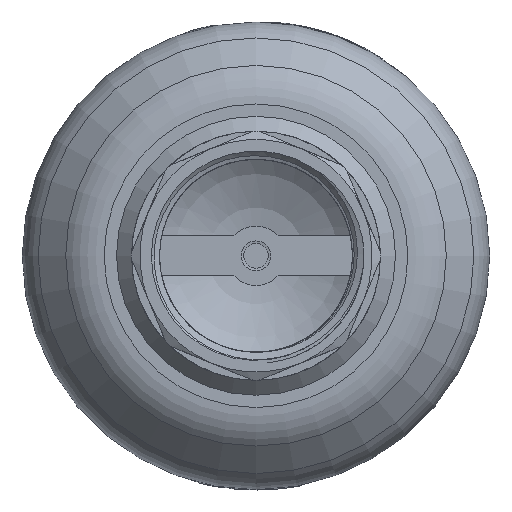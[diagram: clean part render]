
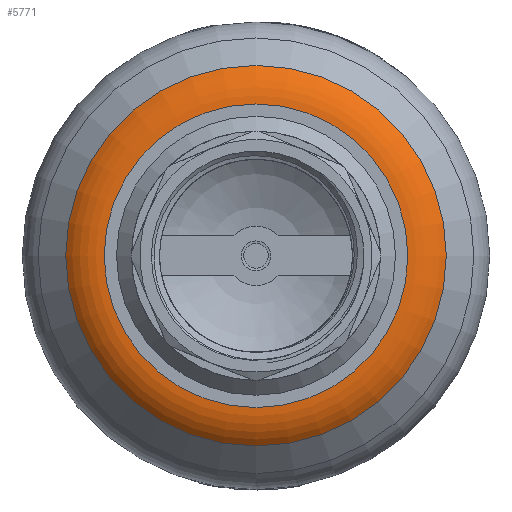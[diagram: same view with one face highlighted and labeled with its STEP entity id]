
A CAD part, left-side view. The second image highlights one B-rep face of the part: STEP entity #5771.
In plain terms, the highlighted toroidal (fillet/blend) face has major radius 30.686 mm and minor radius 11 mm.
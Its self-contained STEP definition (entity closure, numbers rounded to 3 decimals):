
#20=TOROIDAL_SURFACE('',#6304,30.686,11.);
#1648=FACE_OUTER_BOUND('',#1996,.T.);
#1996=EDGE_LOOP('',(#5431,#5432,#5433,#5434,#5435,#5436,#5437));
#2221=CIRCLE('',#6301,38.464);
#2222=CIRCLE('',#6302,38.464);
#2223=CIRCLE('',#6303,38.464);
#2224=CIRCLE('',#6305,30.686);
#2225=CIRCLE('',#6306,30.686);
#2226=CIRCLE('',#6307,11.);
#2817=VERTEX_POINT('',#16381);
#2818=VERTEX_POINT('',#16382);
#2819=VERTEX_POINT('',#16384);
#2820=VERTEX_POINT('',#16389);
#2821=VERTEX_POINT('',#16390);
#3691=EDGE_CURVE('',#2817,#2818,#2221,.T.);
#3692=EDGE_CURVE('',#2819,#2817,#2222,.T.);
#3693=EDGE_CURVE('',#2818,#2819,#2223,.T.);
#3695=EDGE_CURVE('',#2820,#2821,#2224,.T.);
#3696=EDGE_CURVE('',#2821,#2820,#2225,.T.);
#3697=EDGE_CURVE('',#2821,#2819,#2226,.T.);
#5431=ORIENTED_EDGE('',*,*,#3695,.F.);
#5432=ORIENTED_EDGE('',*,*,#3696,.F.);
#5433=ORIENTED_EDGE('',*,*,#3697,.T.);
#5434=ORIENTED_EDGE('',*,*,#3692,.T.);
#5435=ORIENTED_EDGE('',*,*,#3691,.T.);
#5436=ORIENTED_EDGE('',*,*,#3693,.T.);
#5437=ORIENTED_EDGE('',*,*,#3697,.F.);
#5771=ADVANCED_FACE('',(#1648),#20,.T.);
#6301=AXIS2_PLACEMENT_3D('',#16383,#7651,#7652);
#6302=AXIS2_PLACEMENT_3D('',#16385,#7653,#7654);
#6303=AXIS2_PLACEMENT_3D('',#16386,#7655,#7656);
#6304=AXIS2_PLACEMENT_3D('',#16388,#7658,#7659);
#6305=AXIS2_PLACEMENT_3D('',#16391,#7660,#7661);
#6306=AXIS2_PLACEMENT_3D('',#16392,#7662,#7663);
#6307=AXIS2_PLACEMENT_3D('',#16393,#7664,#7665);
#7651=DIRECTION('center_axis',(-1.,0.,0.));
#7652=DIRECTION('ref_axis',(0.,0.,1.));
#7653=DIRECTION('center_axis',(-1.,0.,0.));
#7654=DIRECTION('ref_axis',(0.,0.,1.));
#7655=DIRECTION('center_axis',(-1.,0.,0.));
#7656=DIRECTION('ref_axis',(0.,0.,1.));
#7658=DIRECTION('center_axis',(-1.,0.,0.));
#7659=DIRECTION('ref_axis',(0.,0.,1.));
#7660=DIRECTION('center_axis',(-1.,0.,0.));
#7661=DIRECTION('ref_axis',(0.,0.,1.));
#7662=DIRECTION('center_axis',(-1.,0.,0.));
#7663=DIRECTION('ref_axis',(0.,0.,1.));
#7664=DIRECTION('center_axis',(0.,-1.,0.));
#7665=DIRECTION('ref_axis',(0.,0.,-1.));
#16381=CARTESIAN_POINT('',(-33.005,-38.464,0.));
#16382=CARTESIAN_POINT('',(-33.005,38.464,0.));
#16383=CARTESIAN_POINT('Origin',(-33.005,0.,
0.));
#16384=CARTESIAN_POINT('',(-33.005,0.,-38.464));
#16385=CARTESIAN_POINT('Origin',(-33.005,0.,
0.));
#16386=CARTESIAN_POINT('Origin',(-33.005,0.,
0.));
#16388=CARTESIAN_POINT('Origin',(-25.227,0.,
0.));
#16389=CARTESIAN_POINT('',(-36.227,-30.686,0.));
#16390=CARTESIAN_POINT('',(-36.227,0.,-30.686));
#16391=CARTESIAN_POINT('Origin',(-36.227,0.,
0.));
#16392=CARTESIAN_POINT('Origin',(-36.227,0.,
0.));
#16393=CARTESIAN_POINT('Origin',(-25.227,0.,
-30.686));
